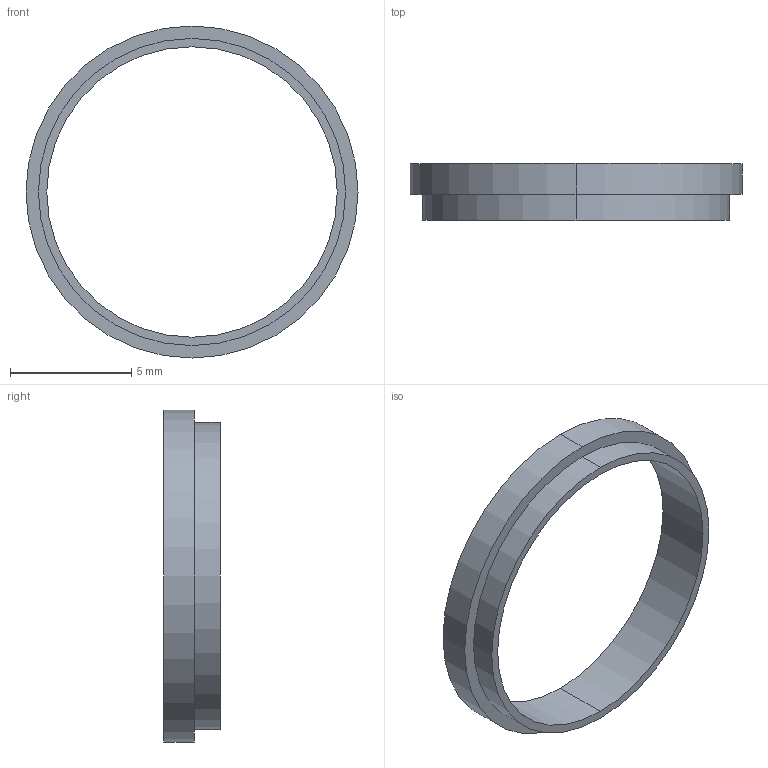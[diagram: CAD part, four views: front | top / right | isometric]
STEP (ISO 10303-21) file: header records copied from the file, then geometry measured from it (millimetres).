
FILE_DESCRIPTION (( 'STEP AP203' ), '1' );
FILE_NAME ('633142.STEP', '2016-08-26T19:25:41', ( '' ), ( '' ), 'SwSTEP 2.0', 'SolidWorks 2014', '' );
FILE_SCHEMA (( 'CONFIG_CONTROL_DESIGN' ));
Length unit declared in the file: inch
Products named in the file (1): 633142
Bounding box: 13.72 x 2.34 x 13.72 mm (x, y, z)
Volume: 58.3 mm3; surface area: 254.7 mm2
Topology: 1 solids, 1 shells, 9 faces, 18 edges, 12 vertices
Faces by surface type: cylinder 6, plane 3
Entity records: 327 total; most frequent: DIRECTION 50, CARTESIAN_POINT 40, ORIENTED_EDGE 36, AXIS2_PLACEMENT_3D 22, EDGE_CURVE 18, VERTEX_POINT 12, EDGE_LOOP 12, CIRCLE 12
